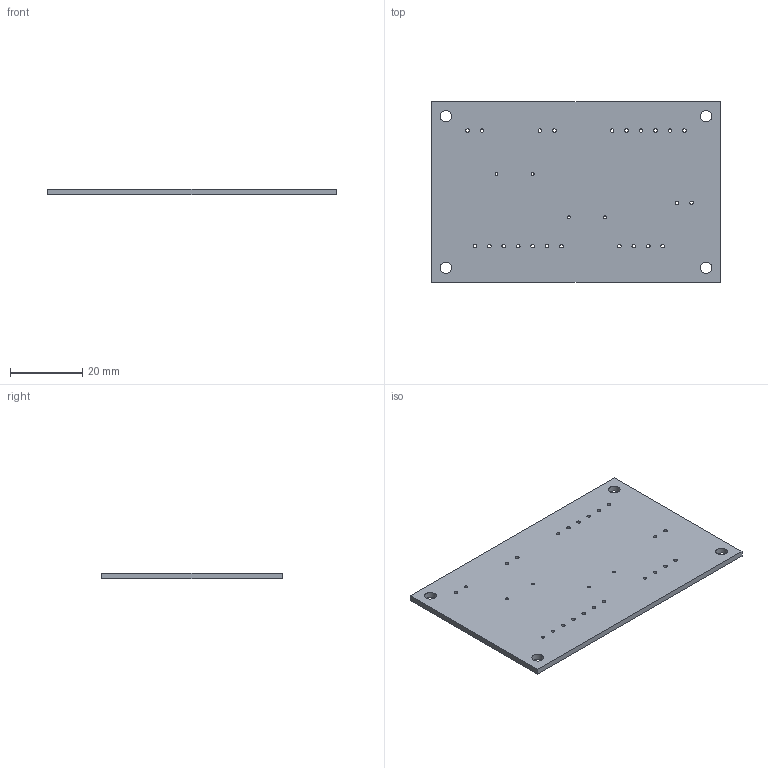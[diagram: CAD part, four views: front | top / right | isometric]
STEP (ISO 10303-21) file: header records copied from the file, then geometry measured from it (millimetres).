
FILE_DESCRIPTION(('KiCad electronic assembly'),'2;1');
FILE_NAME('pcb.step','2026-10-05T13:07:43',('Pcbnew'),('Kicad'), 'Open CASCADE STEP processor 7.6','KiCad to STEP converter','Unknown' );
FILE_SCHEMA(('AUTOMOTIVE_DESIGN { 1 0 10303 214 1 1 1 1 }'));
Length unit declared in the file: millimetre
Products named in the file (2): pcb 1; DI_Box PCB
Assembly tree (1 placements, depth 2):
  pcb 1
    DI_Box PCB
Bounding box: 80 x 50 x 1.6 mm (x, y, z)
Volume: 6316.4 mm3; surface area: 8507.5 mm2
Topology: 1 solids, 1 shells, 37 faces, 105 edges, 70 vertices
Faces by surface type: cylinder 31, plane 6
Full cylindrical faces by diameter (mm): 0.8 x4, 1 x23, 3.2 x4
Entity records: 2963 total; most frequent: CARTESIAN_POINT 796, DIRECTION 393, ORIENTED_EDGE 210, PCURVE 210, DEFINITIONAL_REPRESENTATION 210, LINE 191, VECTOR 191, EDGE_CURVE 105
